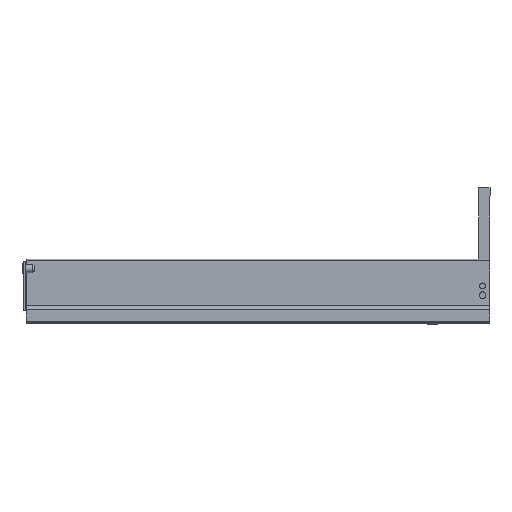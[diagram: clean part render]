
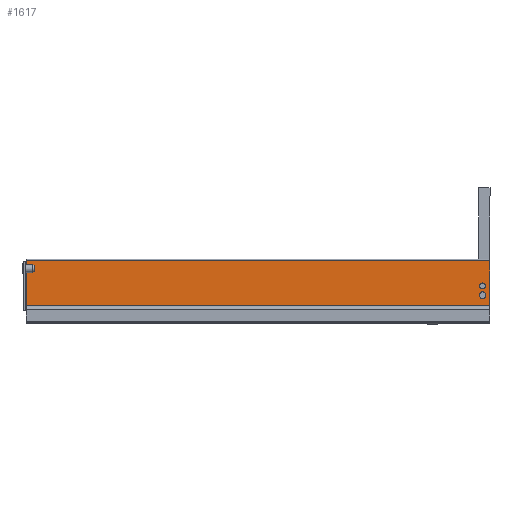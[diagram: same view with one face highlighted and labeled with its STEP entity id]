
A CAD part, left-side view. The second image highlights one B-rep face of the part: STEP entity #1617.
In plain terms, the highlighted planar face has unit normal (-1, 0, 0).
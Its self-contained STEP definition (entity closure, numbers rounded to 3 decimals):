
#47 = VERTEX_POINT ( 'NONE', #600 ) ;
#54 = VERTEX_POINT ( 'NONE', #589 ) ;
#66 = CARTESIAN_POINT ( 'NONE',  ( -21.5, 10.4, 37.1 ) ) ;
#70 = CARTESIAN_POINT ( 'NONE',  ( -21.5, 10.4, 24.6 ) ) ;
#100 = VERTEX_POINT ( 'NONE', #137 ) ;
#114 = VERTEX_POINT ( 'NONE', #70 ) ;
#131 = VERTEX_POINT ( 'NONE', #66 ) ;
#137 = CARTESIAN_POINT ( 'NONE',  ( -21.5, 0., 5.395 ) ) ;
#196 = VERTEX_POINT ( 'NONE', #430 ) ;
#231 = VERTEX_POINT ( 'NONE', #429 ) ;
#331 = DIRECTION ( 'NONE',  ( -1., 0., 0. ) ) ;
#371 = CARTESIAN_POINT ( 'NONE',  ( -21.5, 647., 68. ) ) ;
#402 = DIRECTION ( 'NONE',  ( 0., 0., -1. ) ) ;
#424 = PLANE ( 'NONE',  #2678 ) ;
#425 = CARTESIAN_POINT ( 'NONE',  ( -21.5, 647., 68. ) ) ;
#429 = CARTESIAN_POINT ( 'NONE',  ( -21.5, 10.4, 15.4 ) ) ;
#430 = CARTESIAN_POINT ( 'NONE',  ( -21.5, 647., 5.395 ) ) ;
#504 = VERTEX_POINT ( 'NONE', #371 ) ;
#589 = CARTESIAN_POINT ( 'NONE',  ( -21.5, 10.4, 28.9 ) ) ;
#600 = CARTESIAN_POINT ( 'NONE',  ( -21.5, 0., 68. ) ) ;
#761 = DIRECTION ( 'NONE',  ( 0., 0., -1. ) ) ;
#782 = CARTESIAN_POINT ( 'NONE',  ( -21.5, 10.4, 33. ) ) ;
#792 = DIRECTION ( 'NONE',  ( 1., 0., 0. ) ) ;
#794 = CARTESIAN_POINT ( 'NONE',  ( -21.5, 10.4, 20. ) ) ;
#817 = CARTESIAN_POINT ( 'NONE',  ( -21.5, 10.4, 20. ) ) ;
#833 = DIRECTION ( 'NONE',  ( 0., 0., -1. ) ) ;
#835 = DIRECTION ( 'NONE',  ( 1., 0., 0. ) ) ;
#842 = DIRECTION ( 'NONE',  ( 0., 0., -1. ) ) ;
#843 = DIRECTION ( 'NONE',  ( 1., 0., 0. ) ) ;
#935 = CIRCLE ( 'NONE', #2945, 4.6 ) ;
#946 = CIRCLE ( 'NONE', #2815, 4.6 ) ;
#951 = CIRCLE ( 'NONE', #2667, 4.1 ) ;
#1023 = CARTESIAN_POINT ( 'NONE',  ( -21.5, 647., 5.395 ) ) ;
#1108 = DIRECTION ( 'NONE',  ( 0., -1., 0. ) ) ;
#1123 = CARTESIAN_POINT ( 'NONE',  ( -21.5, 647., 68. ) ) ;
#1124 = DIRECTION ( 'NONE',  ( 0., -1., 0. ) ) ;
#1167 = VECTOR ( 'NONE', #1124, 1000. ) ;
#1168 = LINE ( 'NONE', #1123, #1167 ) ;
#1213 = CIRCLE ( 'NONE', #2950, 4.1 ) ;
#1250 = VECTOR ( 'NONE', #1480, 1000. ) ;
#1251 = LINE ( 'NONE', #1579, #1250 ) ;
#1268 = DIRECTION ( 'NONE',  ( 0., 0., -1. ) ) ;
#1288 = DIRECTION ( 'NONE',  ( 1., 0., 0. ) ) ;
#1480 = DIRECTION ( 'NONE',  ( 0., 0., -1. ) ) ;
#1500 = DIRECTION ( 'NONE',  ( 0., 0., -1. ) ) ;
#1552 = CARTESIAN_POINT ( 'NONE',  ( -21.5, 647., 5.395 ) ) ;
#1563 = CARTESIAN_POINT ( 'NONE',  ( -21.5, 10.4, 33. ) ) ;
#1579 = CARTESIAN_POINT ( 'NONE',  ( -21.5, 0., 68. ) ) ;
#1617 = ADVANCED_FACE ( 'NONE', ( #2083, #2244, #2075 ), #424, .T. ) ;
#1724 = VECTOR ( 'NONE', #1500, 1000. ) ;
#1728 = LINE ( 'NONE', #1552, #1724 ) ;
#2020 = ORIENTED_EDGE ( 'NONE', *, *, #2710, .F. ) ;
#2075 = FACE_BOUND ( 'NONE', #2398, .T. ) ;
#2083 = FACE_OUTER_BOUND ( 'NONE', #2299, .T. ) ;
#2122 = ORIENTED_EDGE ( 'NONE', *, *, #2555, .T. ) ;
#2173 = ORIENTED_EDGE ( 'NONE', *, *, #2854, .T. ) ;
#2194 = ORIENTED_EDGE ( 'NONE', *, *, #2567, .T. ) ;
#2229 = ORIENTED_EDGE ( 'NONE', *, *, #2550, .T. ) ;
#2244 = FACE_BOUND ( 'NONE', #2442, .T. ) ;
#2249 = ORIENTED_EDGE ( 'NONE', *, *, #2735, .T. ) ;
#2299 = EDGE_LOOP ( 'NONE', ( #2020, #2173, #2249, #2437 ) ) ;
#2398 = EDGE_LOOP ( 'NONE', ( #2122, #2194 ) ) ;
#2437 = ORIENTED_EDGE ( 'NONE', *, *, #2899, .F. ) ;
#2442 = EDGE_LOOP ( 'NONE', ( #2493, #2229 ) ) ;
#2493 = ORIENTED_EDGE ( 'NONE', *, *, #2929, .T. ) ;
#2550 = EDGE_CURVE ( 'NONE', #131, #54, #951, .T. ) ;
#2555 = EDGE_CURVE ( 'NONE', #231, #114, #946, .T. ) ;
#2567 = EDGE_CURVE ( 'NONE', #114, #231, #935, .T. ) ;
#2667 = AXIS2_PLACEMENT_3D ( 'NONE', #782, #835, #833 ) ;
#2678 = AXIS2_PLACEMENT_3D ( 'NONE', #425, #331, #402 ) ;
#2710 = EDGE_CURVE ( 'NONE', #504, #47, #1168, .T. ) ;
#2735 = EDGE_CURVE ( 'NONE', #196, #100, #2988, .T. ) ;
#2815 = AXIS2_PLACEMENT_3D ( 'NONE', #817, #792, #761 ) ;
#2854 = EDGE_CURVE ( 'NONE', #504, #196, #1728, .T. ) ;
#2899 = EDGE_CURVE ( 'NONE', #47, #100, #1251, .T. ) ;
#2929 = EDGE_CURVE ( 'NONE', #54, #131, #1213, .T. ) ;
#2945 = AXIS2_PLACEMENT_3D ( 'NONE', #794, #843, #842 ) ;
#2950 = AXIS2_PLACEMENT_3D ( 'NONE', #1563, #1288, #1268 ) ;
#2988 = LINE ( 'NONE', #1023, #2989 ) ;
#2989 = VECTOR ( 'NONE', #1108, 1000. ) ;
